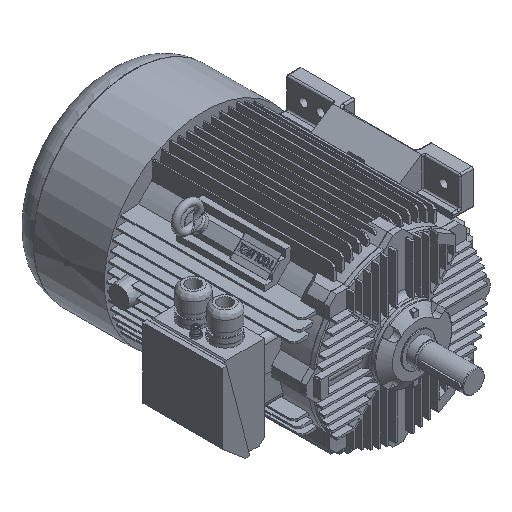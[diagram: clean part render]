
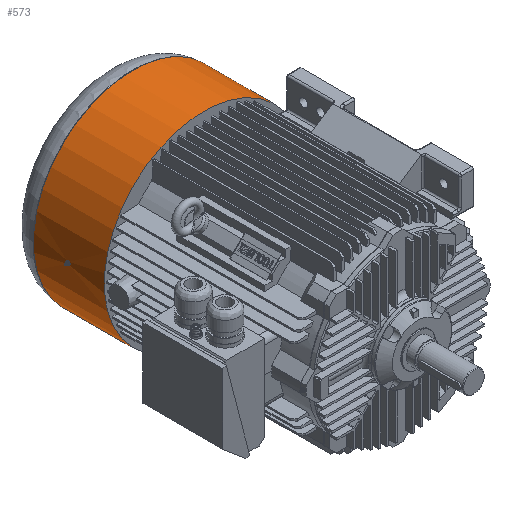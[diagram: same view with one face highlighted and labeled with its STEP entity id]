
A CAD part, isometric view. The second image highlights one B-rep face of the part: STEP entity #573.
In plain terms, the highlighted cylindrical face has radius 298 mm (diameter 596 mm), a partial arc.
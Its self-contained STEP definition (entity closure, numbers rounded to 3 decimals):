
#573 = ADVANCED_FACE( '', ( #2524, #2525 ), #2526, .T. );
#2524 = FACE_OUTER_BOUND( '', #9736, .T. );
#2525 = FACE_BOUND( '', #9737, .T. );
#2526 = CYLINDRICAL_SURFACE( '', #9738, 298. );
#9736 = EDGE_LOOP( '', ( #23511, #23512, #23513, #23514 ) );
#9737 = EDGE_LOOP( '', ( #23515, #23516, #23517, #23518, #23519, #23520 ) );
#9738 = AXIS2_PLACEMENT_3D( '', #23521, #23522, #23523 );
#23511 = ORIENTED_EDGE( '', *, *, #33607, .T. );
#23512 = ORIENTED_EDGE( '', *, *, #33608, .T. );
#23513 = ORIENTED_EDGE( '', *, *, #32667, .F. );
#23514 = ORIENTED_EDGE( '', *, *, #33609, .T. );
#23515 = ORIENTED_EDGE( '', *, *, #33610, .T. );
#23516 = ORIENTED_EDGE( '', *, *, #33611, .T. );
#23517 = ORIENTED_EDGE( '', *, *, #33612, .T. );
#23518 = ORIENTED_EDGE( '', *, *, #33613, .T. );
#23519 = ORIENTED_EDGE( '', *, *, #33614, .T. );
#23520 = ORIENTED_EDGE( '', *, *, #32427, .T. );
#23521 = CARTESIAN_POINT( '', ( 0., 571., 0. ) );
#23522 = DIRECTION( '', ( 0., 1., 0. ) );
#23523 = DIRECTION( '', ( -1., 0., 0. ) );
#32427 = EDGE_CURVE( '', #36569, #36570, #36571, .T. );
#32667 = EDGE_CURVE( '', #37016, #37018, #37019, .T. );
#33607 = EDGE_CURVE( '', #38614, #38615, #38616, .T. );
#33608 = EDGE_CURVE( '', #38615, #37018, #38617, .T. );
#33609 = EDGE_CURVE( '', #37016, #38614, #38618, .F. );
#33610 = EDGE_CURVE( '', #36570, #38619, #38620, .F. );
#33611 = EDGE_CURVE( '', #38619, #38621, #38622, .F. );
#33612 = EDGE_CURVE( '', #38621, #38623, #38624, .F. );
#33613 = EDGE_CURVE( '', #38623, #38625, #38626, .F. );
#33614 = EDGE_CURVE( '', #38625, #36569, #38627, .F. );
#36569 = VERTEX_POINT( '', #45847 );
#36570 = VERTEX_POINT( '', #45848 );
#36571 = LINE( '', #45849, #45850 );
#37016 = VERTEX_POINT( '', #46799 );
#37018 = VERTEX_POINT( '', #46801 );
#37019 = CIRCLE( '', #46802, 298. );
#38614 = VERTEX_POINT( '', #50042 );
#38615 = VERTEX_POINT( '', #50043 );
#38616 = CIRCLE( '', #50044, 298. );
#38617 = LINE( '', #50045, #50046 );
#38618 = LINE( '', #50047, #50048 );
#38619 = VERTEX_POINT( '', #50049 );
#38620 = ELLIPSE( '', #50050, 344.101, 298. );
#38621 = VERTEX_POINT( '', #50051 );
#38622 = ELLIPSE( '', #50052, 344.101, 298. );
#38623 = VERTEX_POINT( '', #50053 );
#38624 = LINE( '', #50054, #50055 );
#38625 = VERTEX_POINT( '', #50056 );
#38626 = ELLIPSE( '', #50057, 344.101, 298. );
#38627 = ELLIPSE( '', #50058, 344.101, 298. );
#45847 = CARTESIAN_POINT( '', ( -297.966, 682.757, 4.493 ) );
#45848 = CARTESIAN_POINT( '', ( -297.966, 675.243, 4.493 ) );
#45849 = CARTESIAN_POINT( '', ( -297.966, 571., 4.493 ) );
#45850 = VECTOR( '', #60874, 1000. );
#46799 = CARTESIAN_POINT( '', ( 267.194, 571., 131.952 ) );
#46801 = CARTESIAN_POINT( '', ( 267.194, 571., -131.952 ) );
#46802 = AXIS2_PLACEMENT_3D( '', #61088, #61089, #61090 );
#50042 = CARTESIAN_POINT( '', ( 267.194, 784., 131.952 ) );
#50043 = CARTESIAN_POINT( '', ( 267.194, 784., -131.952 ) );
#50044 = AXIS2_PLACEMENT_3D( '', #62380, #62381, #62382 );
#50045 = CARTESIAN_POINT( '', ( 267.194, 1024.47, -131.952 ) );
#50046 = VECTOR( '', #62383, 1000. );
#50047 = CARTESIAN_POINT( '', ( 267.194, 1024.47, 131.952 ) );
#50048 = VECTOR( '', #62384, 1000. );
#50049 = CARTESIAN_POINT( '', ( -298., 672.649, 0. ) );
#50050 = AXIS2_PLACEMENT_3D( '', #62385, #62386, #62387 );
#50051 = CARTESIAN_POINT( '', ( -297.966, 675.243, -4.493 ) );
#50052 = AXIS2_PLACEMENT_3D( '', #62388, #62389, #62390 );
#50053 = CARTESIAN_POINT( '', ( -297.966, 682.757, -4.493 ) );
#50054 = CARTESIAN_POINT( '', ( -297.966, 571., -4.493 ) );
#50055 = VECTOR( '', #62391, 1000. );
#50056 = CARTESIAN_POINT( '', ( -298., 685.351, 0. ) );
#50057 = AXIS2_PLACEMENT_3D( '', #62392, #62393, #62394 );
#50058 = AXIS2_PLACEMENT_3D( '', #62395, #62396, #62397 );
#60874 = DIRECTION( '', ( 0., -1., 0. ) );
#61088 = CARTESIAN_POINT( '', ( 0., 571., 0. ) );
#61089 = DIRECTION( '', ( 0., -1., 0. ) );
#61090 = DIRECTION( '', ( -1., 0., 0. ) );
#62380 = CARTESIAN_POINT( '', ( 0., 784., 0. ) );
#62381 = DIRECTION( '', ( 0., -1., 0. ) );
#62382 = DIRECTION( '', ( -1., 0., 0. ) );
#62383 = DIRECTION( '', ( 0., -1., 0. ) );
#62384 = DIRECTION( '', ( 0., -1., 0. ) );
#62385 = CARTESIAN_POINT( '', ( 0., 672.649, 0. ) );
#62386 = DIRECTION( '', ( 0., 0.866, -0.5 ) );
#62387 = DIRECTION( '', ( 0., -0.5, -0.866 ) );
#62388 = CARTESIAN_POINT( '', ( 0., 672.649, 0. ) );
#62389 = DIRECTION( '', ( 0., 0.866, 0.5 ) );
#62390 = DIRECTION( '', ( 0., -0.5, 0.866 ) );
#62391 = DIRECTION( '', ( 0., -1., 0. ) );
#62392 = CARTESIAN_POINT( '', ( 0., 685.351, 0. ) );
#62393 = DIRECTION( '', ( 0., -0.866, 0.5 ) );
#62394 = DIRECTION( '', ( 0., -0.5, -0.866 ) );
#62395 = CARTESIAN_POINT( '', ( 0., 685.351, 0. ) );
#62396 = DIRECTION( '', ( 0., -0.866, -0.5 ) );
#62397 = DIRECTION( '', ( 0., -0.5, 0.866 ) );
